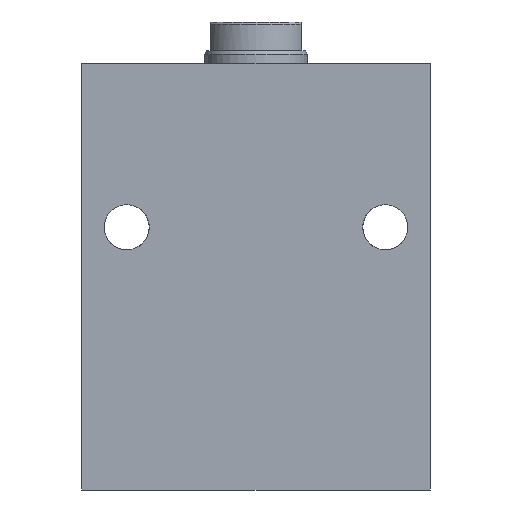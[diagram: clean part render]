
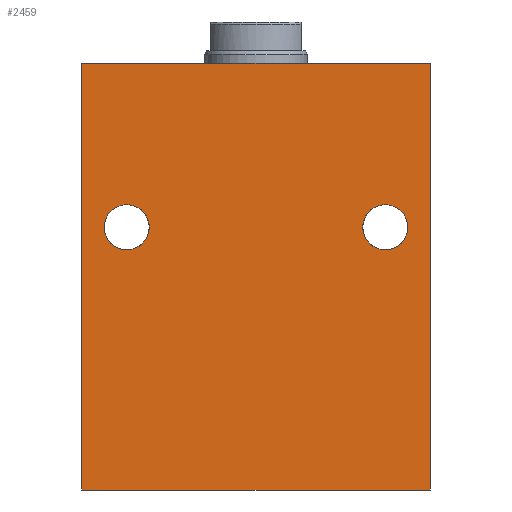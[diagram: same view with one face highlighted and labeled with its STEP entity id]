
A CAD part, front view. The second image highlights one B-rep face of the part: STEP entity #2459.
In plain terms, the highlighted planar face has unit normal (0, -1, 0).
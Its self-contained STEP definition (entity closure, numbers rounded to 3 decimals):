
#157 = VERTEX_POINT ( 'NONE', #380 ) ;
#161 = VERTEX_POINT ( 'NONE', #376 ) ;
#162 = VERTEX_POINT ( 'NONE', #381 ) ;
#191 = VERTEX_POINT ( 'NONE', #345 ) ;
#217 = VERTEX_POINT ( 'NONE', #745 ) ;
#222 = VERTEX_POINT ( 'NONE', #716 ) ;
#229 = VERTEX_POINT ( 'NONE', #701 ) ;
#260 = VERTEX_POINT ( 'NONE', #506 ) ;
#345 = CARTESIAN_POINT ( 'NONE',  ( 42.5, -31.5, 104. ) ) ;
#376 = CARTESIAN_POINT ( 'NONE',  ( 31.5, -31.5, 69.5 ) ) ;
#380 = CARTESIAN_POINT ( 'NONE',  ( 31.5, -31.5, 58.5 ) ) ;
#381 = CARTESIAN_POINT ( 'NONE',  ( -31.5, -31.5, 69.5 ) ) ;
#434 = DIRECTION ( 'NONE',  ( 1., 0., 0. ) ) ;
#437 = CARTESIAN_POINT ( 'NONE',  ( -42.5, -31.5, 104. ) ) ;
#438 = DIRECTION ( 'NONE',  ( 0., 0., 1. ) ) ;
#441 = DIRECTION ( 'NONE',  ( 0., 1., 0. ) ) ;
#442 = CARTESIAN_POINT ( 'NONE',  ( 31.5, -31.5, 64. ) ) ;
#443 = CARTESIAN_POINT ( 'NONE',  ( -42.5, -31.5, 0. ) ) ;
#445 = DIRECTION ( 'NONE',  ( 0., 0., 1. ) ) ;
#446 = DIRECTION ( 'NONE',  ( 0., 1., 0. ) ) ;
#447 = CARTESIAN_POINT ( 'NONE',  ( -31.5, -31.5, 64. ) ) ;
#448 = DIRECTION ( 'NONE',  ( 1., 0., 0. ) ) ;
#453 = DIRECTION ( 'NONE',  ( 0., 0., -1. ) ) ;
#456 = CARTESIAN_POINT ( 'NONE',  ( -42.5, -31.5, 104. ) ) ;
#479 = DIRECTION ( 'NONE',  ( 0., 0., -1. ) ) ;
#493 = CARTESIAN_POINT ( 'NONE',  ( 42.5, -31.5, 104. ) ) ;
#506 = CARTESIAN_POINT ( 'NONE',  ( 42.5, -31.5, 0. ) ) ;
#701 = CARTESIAN_POINT ( 'NONE',  ( -42.5, -31.5, 0. ) ) ;
#716 = CARTESIAN_POINT ( 'NONE',  ( -31.5, -31.5, 58.5 ) ) ;
#745 = CARTESIAN_POINT ( 'NONE',  ( -42.5, -31.5, 104. ) ) ;
#917 = FACE_BOUND ( 'NONE', #2044, .T. ) ;
#920 = FACE_OUTER_BOUND ( 'NONE', #2105, .T. ) ;
#921 = FACE_BOUND ( 'NONE', #2085, .T. ) ;
#1054 = CIRCLE ( 'NONE', #1438, 5.5 ) ;
#1068 = CIRCLE ( 'NONE', #1508, 5.5 ) ;
#1112 = VECTOR ( 'NONE', #434, 1000. ) ;
#1114 = VECTOR ( 'NONE', #448, 1000. ) ;
#1115 = LINE ( 'NONE', #437, #1112 ) ;
#1117 = LINE ( 'NONE', #443, #1114 ) ;
#1119 = CIRCLE ( 'NONE', #2179, 5.5 ) ;
#1120 = VECTOR ( 'NONE', #453, 1000. ) ;
#1121 = CIRCLE ( 'NONE', #2178, 5.5 ) ;
#1123 = LINE ( 'NONE', #456, #1120 ) ;
#1133 = VECTOR ( 'NONE', #479, 1000. ) ;
#1138 = LINE ( 'NONE', #493, #1133 ) ;
#1438 = AXIS2_PLACEMENT_3D ( 'NONE', #1934, #1932, #1931 ) ;
#1441 = AXIS2_PLACEMENT_3D ( 'NONE', #1624, #1633, #1619 ) ;
#1508 = AXIS2_PLACEMENT_3D ( 'NONE', #1557, #1554, #1551 ) ;
#1551 = DIRECTION ( 'NONE',  ( 0., 0., 1. ) ) ;
#1554 = DIRECTION ( 'NONE',  ( 0., 1., 0. ) ) ;
#1557 = CARTESIAN_POINT ( 'NONE',  ( -31.5, -31.5, 64. ) ) ;
#1619 = DIRECTION ( 'NONE',  ( 0., 0., 1. ) ) ;
#1621 = PLANE ( 'NONE',  #1441 ) ;
#1624 = CARTESIAN_POINT ( 'NONE',  ( -42.5, -31.5, 104. ) ) ;
#1633 = DIRECTION ( 'NONE',  ( 0., 1., 0. ) ) ;
#1931 = DIRECTION ( 'NONE',  ( 0., 0., 1. ) ) ;
#1932 = DIRECTION ( 'NONE',  ( 0., 1., 0. ) ) ;
#1934 = CARTESIAN_POINT ( 'NONE',  ( 31.5, -31.5, 64. ) ) ;
#2041 = ORIENTED_EDGE ( 'NONE', *, *, #2303, .T. ) ;
#2044 = EDGE_LOOP ( 'NONE', ( #2053, #2052 ) ) ;
#2049 = ORIENTED_EDGE ( 'NONE', *, *, #2308, .F. ) ;
#2050 = ORIENTED_EDGE ( 'NONE', *, *, #2295, .F. ) ;
#2051 = ORIENTED_EDGE ( 'NONE', *, *, #2307, .T. ) ;
#2052 = ORIENTED_EDGE ( 'NONE', *, *, #2361, .T. ) ;
#2053 = ORIENTED_EDGE ( 'NONE', *, *, #2306, .T. ) ;
#2054 = ORIENTED_EDGE ( 'NONE', *, *, #2354, .T. ) ;
#2055 = ORIENTED_EDGE ( 'NONE', *, *, #2305, .T. ) ;
#2085 = EDGE_LOOP ( 'NONE', ( #2055, #2054 ) ) ;
#2105 = EDGE_LOOP ( 'NONE', ( #2051, #2050, #2049, #2041 ) ) ;
#2178 = AXIS2_PLACEMENT_3D ( 'NONE', #442, #441, #438 ) ;
#2179 = AXIS2_PLACEMENT_3D ( 'NONE', #447, #446, #445 ) ;
#2295 = EDGE_CURVE ( 'NONE', #191, #260, #1138, .T. ) ;
#2303 = EDGE_CURVE ( 'NONE', #217, #229, #1123, .T. ) ;
#2305 = EDGE_CURVE ( 'NONE', #162, #222, #1119, .T. ) ;
#2306 = EDGE_CURVE ( 'NONE', #161, #157, #1121, .T. ) ;
#2307 = EDGE_CURVE ( 'NONE', #229, #260, #1117, .T. ) ;
#2308 = EDGE_CURVE ( 'NONE', #217, #191, #1115, .T. ) ;
#2354 = EDGE_CURVE ( 'NONE', #222, #162, #1068, .T. ) ;
#2361 = EDGE_CURVE ( 'NONE', #157, #161, #1054, .T. ) ;
#2459 = ADVANCED_FACE ( 'NONE', ( #921, #917, #920 ), #1621, .F. ) ;
